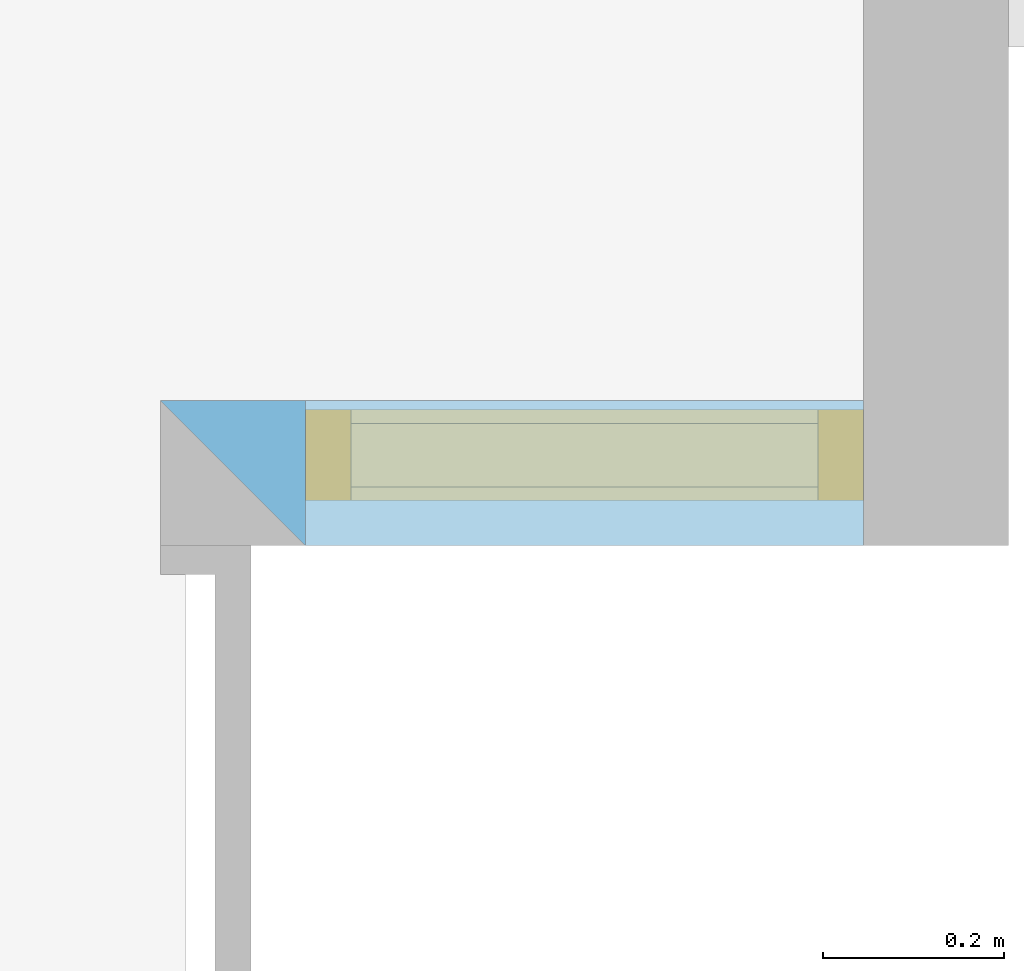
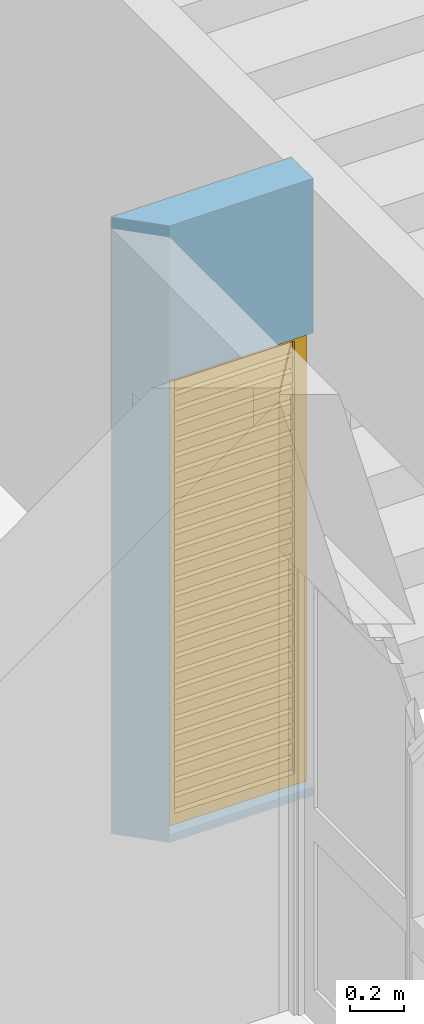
# One storey, part 41 of 45: 1 window, 1 opening, plus 1 element that does not belong to this part.
"""IFC2X3 building model written with IfcOpenShell, lengths in metres."""

from ifc_helpers import new_model, entity, si_unit, converted_unit, money_unit, direction, frame, origin_with_axes, place, context, subcontext, project, spatial, polyline, outline, extrude, faceted_brep, material, layer, layer_set, layer_usage, type_object, element, fill, save


model = new_model("IFC2X3")

# Units and contexts
model_context = context("Model", 3, precision=1e-05, world=origin_with_axes(), true_north=direction((0.0, 1.0)))
body_context = subcontext(model_context, "Body", "Model", "MODEL_VIEW")
ifc_project = project(units=[si_unit("LENGTHUNIT", "METRE"), si_unit("AREAUNIT", "SQUARE_METRE"), si_unit("VOLUMEUNIT", "CUBIC_METRE"), converted_unit("PLANEANGLEUNIT", "DEGREE", entity("IfcPlaneAngleMeasure", 0.0174532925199), si_unit("PLANEANGLEUNIT", "RADIAN"), dimensions=[0, 0, 0, 0, 0, 0, 0]), si_unit("SOLIDANGLEUNIT", "STERADIAN"), money_unit("EUR"), converted_unit("TIMEUNIT", "Year", entity("IfcTimeMeasure", 31556926.0), si_unit("TIMEUNIT", "SECOND"), dimensions=[0, 0, 0, 0, 0, 0, 0]), si_unit("MASSUNIT", "GRAM"), si_unit("THERMODYNAMICTEMPERATUREUNIT", "DEGREE_CELSIUS"), si_unit("LUMINOUSINTENSITYUNIT", "LUMEN")], contexts=[model_context])

# Site, building, storey
site_placement = place(None, origin_with_axes())
site = spatial("IfcSite", under=ifc_project, at=site_placement, Name="Site", CompositionType="ELEMENT")
building_placement = place(site_placement, origin_with_axes())
building = spatial("IfcBuilding", under=site, at=building_placement, Name="Bâtiment", CompositionType="ELEMENT")
storey_placement = place(building_placement, origin_with_axes())
storey = spatial("IfcBuildingStorey", under=building, at=storey_placement, Name="NIVEAU BAS GYMNASE", CompositionType="ELEMENT", Elevation=0.0)

# Wall, opening, window
ifc_material_1 = material(Name="Hachure solide* 1842511997")
ifc_layer = layer(ifc_material_1, 0.16, ventilated="UNKNOWN")
ifc_layer_set = layer_set([ifc_layer], Name="Hachure solide* 1842511997 0.16")
ifc_layer_usage = layer_usage(ifc_layer_set, "AXIS2", "POSITIVE", 0.0)
wall_type = type_object("IfcWallType", Name="Hachure solide* 1842511997 160", PredefinedType="NOTDEFINED")
wall_placement = place(storey_placement, frame((66.4830112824, 15.728815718, 0.0), z_axis=(0.0, 0.0, 1.0), x_axis=(1.0, 0.0, 0.0)))
wall = element("IfcWallStandardCase", 1, at=wall_placement, inside=storey, type_object=wall_type, material=ifc_layer_usage, Name="Mur-004", context=body_context, shape_type="SweptSolid", body=[
    extrude(outline(polyline([(0.0, 0.0), (0.6154466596, 0.0), (0.6154466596, 0.16), (-0.16, 0.16), (0.0, 0.0)])), origin_with_axes(), (0.0, 0.0, 1.0), 2.8),
])
opening_placement = place(wall_placement, frame((0.30772332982, 0.0, 0.0359228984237), z_axis=(0.0, 0.0, 1.0), x_axis=(1.0, 0.0, 0.0)))
opening = element("IfcOpeningElement", 2, at=opening_placement, cuts=wall, Name="Fen-030", context=body_context, shape_type="SweptSolid", body=[
    extrude(outline(polyline([(0.307723, 2.064078), (-0.307723, 2.064078), (-0.307723, 0.0), (0.307723, 0.0), (0.307723, 2.064078)])), frame((0.0, 0.05, 0.0), z_axis=(0.0, 1.0, 0.0), x_axis=(-1.0, 0.0, 0.0)), (0.0, 0.0, 1.0), 0.27),
    extrude(outline(polyline([(0.307723, 0.0), (-0.307723, 0.0), (-0.307723, -2.064078), (0.307723, -2.064078), (0.307723, 0.0)])), frame((0.0, 0.05, 0.0), z_axis=(0.0, -1.0, 0.0), x_axis=(-1.0, 0.0, 0.0)), (0.0, 0.0, 1.0), 0.21),
])
ifc_material_2 = material(Name="Sans Trame")
window_style = type_object("IfcWindowStyle", Name="Fenêtre ventilation 10", ConstructionType="NOTDEFINED", OperationType="USERDEFINED", ParameterTakesPrecedence=False, Sizeable=False)
window_placement = place(opening_placement, frame((0.30772332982, 0.0, 0.0), z_axis=(0.0, 0.0, 1.0), x_axis=(-1.0, 0.0, 0.0)))
window = element("IfcWindow", 3, at=window_placement, inside=storey, type_object=window_style, material=ifc_material_2, Name="Fen-030", OverallHeight=2.06408, OverallWidth=0.615447, context=body_context, shape_type="Brep", body=[
    faceted_brep([(0.565447, -0.05, 2.014077), (0.565447, -0.15, 2.014077), (0.615447, -0.15, 2.064077), (0.615447, -0.05, 2.064077), (0.565447, -0.05, 0.05), (0.565447, -0.15, 0.05), (0.615447, -0.15, 0.0), (0.615447, -0.05, 0.0)], [[[0, 1, 2, 3]], [[4, 5, 1, 0]], [[1, 5, 6, 2]], [[3, 2, 6, 7]], [[0, 3, 7, 4]], [[7, 6, 5, 4]]]),
    faceted_brep([(0.05, -0.05, 0.05), (0.05, -0.15, 0.05), (0.0, -0.15, 0.0), (0.0, -0.05, 0.0), (0.05, -0.05, 2.014077), (0.05, -0.15, 2.014077), (0.0, -0.15, 2.064077), (0.0, -0.05, 2.064077)], [[[0, 1, 2, 3]], [[4, 5, 1, 0]], [[1, 5, 6, 2]], [[3, 2, 6, 7]], [[0, 3, 7, 4]], [[7, 6, 5, 4]]]),
    faceted_brep([(0.565447, -0.05, 0.05), (0.565447, -0.15, 0.05), (0.615447, -0.15, 0.0), (0.615447, -0.05, 0.0), (0.05, -0.05, 0.05), (0.05, -0.15, 0.05), (0.0, -0.15, 0.0), (0.0, -0.05, 0.0)], [[[0, 1, 2, 3]], [[4, 5, 1, 0]], [[1, 5, 6, 2]], [[3, 2, 6, 7]], [[0, 3, 7, 4]], [[7, 6, 5, 4]]]),
    faceted_brep([(0.05, -0.05, 2.014077), (0.05, -0.15, 2.014077), (0.0, -0.15, 2.064077), (0.0, -0.05, 2.064077), (0.565447, -0.05, 2.014077), (0.565447, -0.15, 2.014077), (0.615447, -0.15, 2.064077), (0.615447, -0.05, 2.064077)], [[[0, 1, 2, 3]], [[4, 5, 1, 0]], [[1, 5, 6, 2]], [[3, 2, 6, 7]], [[0, 3, 7, 4]], [[7, 6, 5, 4]]]),
    faceted_brep([(0.565447, -0.135073, 0.060073), (0.05, -0.135073, 0.060073), (0.05, -0.064927, 0.060073), (0.565447, -0.064927, 0.060073), (0.565447, -0.135073, 0.110073), (0.05, -0.135073, 0.110073), (0.05, -0.064927, 0.110073), (0.565447, -0.064927, 0.110073)], [[[0, 1, 2, 3]], [[4, 5, 1, 0]], [[1, 5, 6, 2]], [[3, 2, 6, 7]], [[0, 3, 7, 4]], [[7, 6, 5, 4]]]),
    faceted_brep([(0.565447, -0.135073, 0.130218), (0.05, -0.135073, 0.130218), (0.05, -0.064927, 0.130218), (0.565447, -0.064927, 0.130218), (0.565447, -0.135073, 0.180218), (0.05, -0.135073, 0.180218), (0.05, -0.064927, 0.180218), (0.565447, -0.064927, 0.180218)], [[[0, 1, 2, 3]], [[4, 5, 1, 0]], [[1, 5, 6, 2]], [[3, 2, 6, 7]], [[0, 3, 7, 4]], [[7, 6, 5, 4]]]),
    faceted_brep([(0.565447, -0.135073, 0.200364), (0.05, -0.135073, 0.200364), (0.05, -0.064927, 0.200364), (0.565447, -0.064927, 0.200364), (0.565447, -0.135073, 0.250364), (0.05, -0.135073, 0.250364), (0.05, -0.064927, 0.250364), (0.565447, -0.064927, 0.250364)], [[[0, 1, 2, 3]], [[4, 5, 1, 0]], [[1, 5, 6, 2]], [[3, 2, 6, 7]], [[0, 3, 7, 4]], [[7, 6, 5, 4]]]),
    faceted_brep([(0.565447, -0.135073, 0.27051), (0.05, -0.135073, 0.27051), (0.05, -0.064927, 0.27051), (0.565447, -0.064927, 0.27051), (0.565447, -0.135073, 0.32051), (0.05, -0.135073, 0.32051), (0.05, -0.064927, 0.32051), (0.565447, -0.064927, 0.32051)], [[[0, 1, 2, 3]], [[4, 5, 1, 0]], [[1, 5, 6, 2]], [[3, 2, 6, 7]], [[0, 3, 7, 4]], [[7, 6, 5, 4]]]),
    faceted_brep([(0.565447, -0.135073, 0.340655), (0.05, -0.135073, 0.340655), (0.05, -0.064927, 0.340655), (0.565447, -0.064927, 0.340655), (0.565447, -0.135073, 0.390655), (0.05, -0.135073, 0.390655), (0.05, -0.064927, 0.390655), (0.565447, -0.064927, 0.390655)], [[[0, 1, 2, 3]], [[4, 5, 1, 0]], [[1, 5, 6, 2]], [[3, 2, 6, 7]], [[0, 3, 7, 4]], [[7, 6, 5, 4]]]),
    faceted_brep([(0.565447, -0.135073, 0.410801), (0.05, -0.135073, 0.410801), (0.05, -0.064927, 0.410801), (0.565447, -0.064927, 0.410801), (0.565447, -0.135073, 0.460801), (0.05, -0.135073, 0.460801), (0.05, -0.064927, 0.460801), (0.565447, -0.064927, 0.460801)], [[[0, 1, 2, 3]], [[4, 5, 1, 0]], [[1, 5, 6, 2]], [[3, 2, 6, 7]], [[0, 3, 7, 4]], [[7, 6, 5, 4]]]),
    faceted_brep([(0.565447, -0.135073, 0.480946), (0.05, -0.135073, 0.480946), (0.05, -0.064927, 0.480946), (0.565447, -0.064927, 0.480946), (0.565447, -0.135073, 0.530946), (0.05, -0.135073, 0.530946), (0.05, -0.064927, 0.530946), (0.565447, -0.064927, 0.530946)], [[[0, 1, 2, 3]], [[4, 5, 1, 0]], [[1, 5, 6, 2]], [[3, 2, 6, 7]], [[0, 3, 7, 4]], [[7, 6, 5, 4]]]),
    faceted_brep([(0.565447, -0.135073, 0.551092), (0.05, -0.135073, 0.551092), (0.05, -0.064927, 0.551092), (0.565447, -0.064927, 0.551092), (0.565447, -0.135073, 0.601092), (0.05, -0.135073, 0.601092), (0.05, -0.064927, 0.601092), (0.565447, -0.064927, 0.601092)], [[[0, 1, 2, 3]], [[4, 5, 1, 0]], [[1, 5, 6, 2]], [[3, 2, 6, 7]], [[0, 3, 7, 4]], [[7, 6, 5, 4]]]),
    faceted_brep([(0.565447, -0.135073, 0.621238), (0.05, -0.135073, 0.621238), (0.05, -0.064927, 0.621238), (0.565447, -0.064927, 0.621238), (0.565447, -0.135073, 0.671238), (0.05, -0.135073, 0.671238), (0.05, -0.064927, 0.671238), (0.565447, -0.064927, 0.671238)], [[[0, 1, 2, 3]], [[4, 5, 1, 0]], [[1, 5, 6, 2]], [[3, 2, 6, 7]], [[0, 3, 7, 4]], [[7, 6, 5, 4]]]),
    faceted_brep([(0.565447, -0.135073, 0.691383), (0.05, -0.135073, 0.691383), (0.05, -0.064927, 0.691383), (0.565447, -0.064927, 0.691383), (0.565447, -0.135073, 0.741383), (0.05, -0.135073, 0.741383), (0.05, -0.064927, 0.741383), (0.565447, -0.064927, 0.741383)], [[[0, 1, 2, 3]], [[4, 5, 1, 0]], [[1, 5, 6, 2]], [[3, 2, 6, 7]], [[0, 3, 7, 4]], [[7, 6, 5, 4]]]),
    faceted_brep([(0.565447, -0.135073, 0.761529), (0.05, -0.135073, 0.761529), (0.05, -0.064927, 0.761529), (0.565447, -0.064927, 0.761529), (0.565447, -0.135073, 0.811529), (0.05, -0.135073, 0.811529), (0.05, -0.064927, 0.811529), (0.565447, -0.064927, 0.811529)], [[[0, 1, 2, 3]], [[4, 5, 1, 0]], [[1, 5, 6, 2]], [[3, 2, 6, 7]], [[0, 3, 7, 4]], [[7, 6, 5, 4]]]),
    faceted_brep([(0.565447, -0.135073, 0.831675), (0.05, -0.135073, 0.831675), (0.05, -0.064927, 0.831675), (0.565447, -0.064927, 0.831675), (0.565447, -0.135073, 0.881675), (0.05, -0.135073, 0.881675), (0.05, -0.064927, 0.881675), (0.565447, -0.064927, 0.881675)], [[[0, 1, 2, 3]], [[4, 5, 1, 0]], [[1, 5, 6, 2]], [[3, 2, 6, 7]], [[0, 3, 7, 4]], [[7, 6, 5, 4]]]),
    faceted_brep([(0.565447, -0.135073, 0.90182), (0.05, -0.135073, 0.90182), (0.05, -0.064927, 0.90182), (0.565447, -0.064927, 0.90182), (0.565447, -0.135073, 0.95182), (0.05, -0.135073, 0.95182), (0.05, -0.064927, 0.95182), (0.565447, -0.064927, 0.95182)], [[[0, 1, 2, 3]], [[4, 5, 1, 0]], [[1, 5, 6, 2]], [[3, 2, 6, 7]], [[0, 3, 7, 4]], [[7, 6, 5, 4]]]),
    faceted_brep([(0.565447, -0.135073, 0.971966), (0.05, -0.135073, 0.971966), (0.05, -0.064927, 0.971966), (0.565447, -0.064927, 0.971966), (0.565447, -0.135073, 1.021966), (0.05, -0.135073, 1.021966), (0.05, -0.064927, 1.021966), (0.565447, -0.064927, 1.021966)], [[[0, 1, 2, 3]], [[4, 5, 1, 0]], [[1, 5, 6, 2]], [[3, 2, 6, 7]], [[0, 3, 7, 4]], [[7, 6, 5, 4]]]),
    faceted_brep([(0.565447, -0.135073, 1.042111), (0.05, -0.135073, 1.042111), (0.05, -0.064927, 1.042111), (0.565447, -0.064927, 1.042111), (0.565447, -0.135073, 1.092111), (0.05, -0.135073, 1.092111), (0.05, -0.064927, 1.092111), (0.565447, -0.064927, 1.092111)], [[[0, 1, 2, 3]], [[4, 5, 1, 0]], [[1, 5, 6, 2]], [[3, 2, 6, 7]], [[0, 3, 7, 4]], [[7, 6, 5, 4]]]),
    faceted_brep([(0.565447, -0.135073, 1.112257), (0.05, -0.135073, 1.112257), (0.05, -0.064927, 1.112257), (0.565447, -0.064927, 1.112257), (0.565447, -0.135073, 1.162257), (0.05, -0.135073, 1.162257), (0.05, -0.064927, 1.162257), (0.565447, -0.064927, 1.162257)], [[[0, 1, 2, 3]], [[4, 5, 1, 0]], [[1, 5, 6, 2]], [[3, 2, 6, 7]], [[0, 3, 7, 4]], [[7, 6, 5, 4]]]),
    faceted_brep([(0.565447, -0.135073, 1.182403), (0.05, -0.135073, 1.182403), (0.05, -0.064927, 1.182403), (0.565447, -0.064927, 1.182403), (0.565447, -0.135073, 1.232403), (0.05, -0.135073, 1.232403), (0.05, -0.064927, 1.232403), (0.565447, -0.064927, 1.232403)], [[[0, 1, 2, 3]], [[4, 5, 1, 0]], [[1, 5, 6, 2]], [[3, 2, 6, 7]], [[0, 3, 7, 4]], [[7, 6, 5, 4]]]),
    faceted_brep([(0.565447, -0.135073, 1.252548), (0.05, -0.135073, 1.252548), (0.05, -0.064927, 1.252548), (0.565447, -0.064927, 1.252548), (0.565447, -0.135073, 1.302548), (0.05, -0.135073, 1.302548), (0.05, -0.064927, 1.302548), (0.565447, -0.064927, 1.302548)], [[[0, 1, 2, 3]], [[4, 5, 1, 0]], [[1, 5, 6, 2]], [[3, 2, 6, 7]], [[0, 3, 7, 4]], [[7, 6, 5, 4]]]),
    faceted_brep([(0.565447, -0.135073, 1.322694), (0.05, -0.135073, 1.322694), (0.05, -0.064927, 1.322694), (0.565447, -0.064927, 1.322694), (0.565447, -0.135073, 1.372694), (0.05, -0.135073, 1.372694), (0.05, -0.064927, 1.372694), (0.565447, -0.064927, 1.372694)], [[[0, 1, 2, 3]], [[4, 5, 1, 0]], [[1, 5, 6, 2]], [[3, 2, 6, 7]], [[0, 3, 7, 4]], [[7, 6, 5, 4]]]),
    faceted_brep([(0.565447, -0.135073, 1.392839), (0.05, -0.135073, 1.392839), (0.05, -0.064927, 1.392839), (0.565447, -0.064927, 1.392839), (0.565447, -0.135073, 1.442839), (0.05, -0.135073, 1.442839), (0.05, -0.064927, 1.442839), (0.565447, -0.064927, 1.442839)], [[[0, 1, 2, 3]], [[4, 5, 1, 0]], [[1, 5, 6, 2]], [[3, 2, 6, 7]], [[0, 3, 7, 4]], [[7, 6, 5, 4]]]),
    faceted_brep([(0.565447, -0.135073, 1.462985), (0.05, -0.135073, 1.462985), (0.05, -0.064927, 1.462985), (0.565447, -0.064927, 1.462985), (0.565447, -0.135073, 1.512985), (0.05, -0.135073, 1.512985), (0.05, -0.064927, 1.512985), (0.565447, -0.064927, 1.512985)], [[[0, 1, 2, 3]], [[4, 5, 1, 0]], [[1, 5, 6, 2]], [[3, 2, 6, 7]], [[0, 3, 7, 4]], [[7, 6, 5, 4]]]),
    faceted_brep([(0.565447, -0.135073, 1.533131), (0.05, -0.135073, 1.533131), (0.05, -0.064927, 1.533131), (0.565447, -0.064927, 1.533131), (0.565447, -0.135073, 1.583131), (0.05, -0.135073, 1.583131), (0.05, -0.064927, 1.583131), (0.565447, -0.064927, 1.583131)], [[[0, 1, 2, 3]], [[4, 5, 1, 0]], [[1, 5, 6, 2]], [[3, 2, 6, 7]], [[0, 3, 7, 4]], [[7, 6, 5, 4]]]),
    faceted_brep([(0.565447, -0.135073, 1.603276), (0.05, -0.135073, 1.603276), (0.05, -0.064927, 1.603276), (0.565447, -0.064927, 1.603276), (0.565447, -0.135073, 1.653276), (0.05, -0.135073, 1.653276), (0.05, -0.064927, 1.653276), (0.565447, -0.064927, 1.653276)], [[[0, 1, 2, 3]], [[4, 5, 1, 0]], [[1, 5, 6, 2]], [[3, 2, 6, 7]], [[0, 3, 7, 4]], [[7, 6, 5, 4]]]),
    faceted_brep([(0.565447, -0.135073, 1.673422), (0.05, -0.135073, 1.673422), (0.05, -0.064927, 1.673422), (0.565447, -0.064927, 1.673422), (0.565447, -0.135073, 1.723422), (0.05, -0.135073, 1.723422), (0.05, -0.064927, 1.723422), (0.565447, -0.064927, 1.723422)], [[[0, 1, 2, 3]], [[4, 5, 1, 0]], [[1, 5, 6, 2]], [[3, 2, 6, 7]], [[0, 3, 7, 4]], [[7, 6, 5, 4]]]),
    faceted_brep([(0.565447, -0.135073, 1.743567), (0.05, -0.135073, 1.743567), (0.05, -0.064927, 1.743567), (0.565447, -0.064927, 1.743567), (0.565447, -0.135073, 1.793567), (0.05, -0.135073, 1.793567), (0.05, -0.064927, 1.793567), (0.565447, -0.064927, 1.793567)], [[[0, 1, 2, 3]], [[4, 5, 1, 0]], [[1, 5, 6, 2]], [[3, 2, 6, 7]], [[0, 3, 7, 4]], [[7, 6, 5, 4]]]),
    faceted_brep([(0.565447, -0.135073, 1.813713), (0.05, -0.135073, 1.813713), (0.05, -0.064927, 1.813713), (0.565447, -0.064927, 1.813713), (0.565447, -0.135073, 1.863713), (0.05, -0.135073, 1.863713), (0.05, -0.064927, 1.863713), (0.565447, -0.064927, 1.863713)], [[[0, 1, 2, 3]], [[4, 5, 1, 0]], [[1, 5, 6, 2]], [[3, 2, 6, 7]], [[0, 3, 7, 4]], [[7, 6, 5, 4]]]),
    faceted_brep([(0.565447, -0.135073, 1.883859), (0.05, -0.135073, 1.883859), (0.05, -0.064927, 1.883859), (0.565447, -0.064927, 1.883859), (0.565447, -0.135073, 1.933859), (0.05, -0.135073, 1.933859), (0.05, -0.064927, 1.933859), (0.565447, -0.064927, 1.933859)], [[[0, 1, 2, 3]], [[4, 5, 1, 0]], [[1, 5, 6, 2]], [[3, 2, 6, 7]], [[0, 3, 7, 4]], [[7, 6, 5, 4]]]),
    faceted_brep([(0.565447, -0.135073, 1.954004), (0.05, -0.135073, 1.954004), (0.05, -0.064927, 1.954004), (0.565447, -0.064927, 1.954004), (0.565447, -0.135073, 2.004004), (0.05, -0.135073, 2.004004), (0.05, -0.064927, 2.004004), (0.565447, -0.064927, 2.004004)], [[[0, 1, 2, 3]], [[4, 5, 1, 0]], [[1, 5, 6, 2]], [[3, 2, 6, 7]], [[0, 3, 7, 4]], [[7, 6, 5, 4]]]),
])
fill(opening, window)

save(model, "model.ifc")
